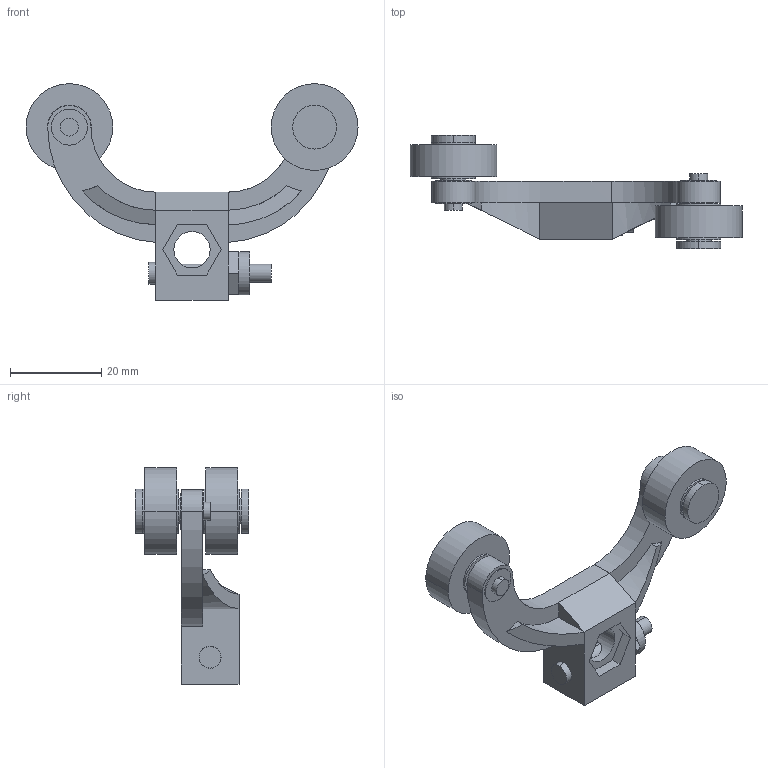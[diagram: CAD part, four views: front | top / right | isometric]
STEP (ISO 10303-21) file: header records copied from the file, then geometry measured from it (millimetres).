
FILE_DESCRIPTION (( 'STEP AP214' ), '1' );
FILE_NAME ('802T-W4.STEP', '2009-07-25T04:58:08', ( 'me' ), ( '' ), 'SwSTEP 2.0', 'SolidWorks 2007', '' );
FILE_SCHEMA (( 'AUTOMOTIVE_DESIGN' ));
Length unit declared in the file: millimetre
Products named in the file (1): 802T-W4
Bounding box: 72.93 x 24.87 x 47.58 mm (x, y, z)
Volume: 12091.9 mm3; surface area: 8203.5 mm2
Topology: 7 solids, 7 shells, 133 faces, 299 edges, 194 vertices
Faces by surface type: cylinder 67, plane 66
Entity records: 5364 total; most frequent: CARTESIAN_POINT 726, DIRECTION 681, ORIENTED_EDGE 598, EDGE_CURVE 299, AXIS2_PLACEMENT_3D 263, VERTEX_POINT 194, EDGE_LOOP 163, LINE 155
